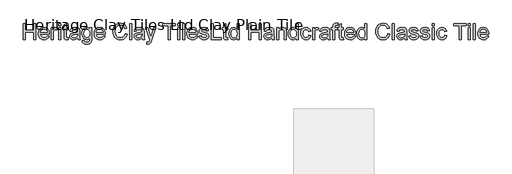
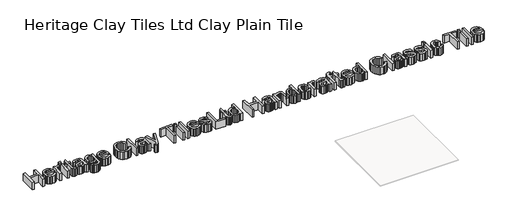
# One storey, part 2 of 3: 1 proxy.
"""IFC4 building model written with IfcOpenShell, lengths in millimetres."""

from ifc_helpers import new_model, si_unit, frame, origin, place, context, project, spatial, polyline, outline, extrude, element, save

model = new_model("IFC4")

# Units and contexts
model_context = context("Model", 3, world=origin())
ifc_project = project(units=[si_unit("LENGTHUNIT", "METRE", prefix="MILLI")], contexts=[model_context])

# Site, building, storey
site = spatial("IfcSite", under=ifc_project)
building = spatial("IfcBuilding", under=site)
storey = spatial("IfcBuildingStorey", under=building, Name="Heritage Clay Tiles Ltd Clay Plain Tile", Elevation=3000.0)

# Proxy
placement = place(None, origin())
element("IfcBuildingElementProxy", 1, Name="600mm Arial", ObjectType="600mm Arial", at=placement, inside=storey, context=model_context, shape_type="SweptSolid", body=[
    extrude(outline(polyline([(-15910.8184217, 5094.6734904), (-15910.8184217, 5396.0424208), (-15873.1473054, 5396.0424208), (-15873.1473054, 5273.6112928), (-15713.0450611, 5273.6112928), (-15713.0450611, 5396.0424208), (-15675.3739448, 5396.0424208), (-15675.3739448, 5094.6734904), (-15713.0450611, 5094.6734904), (-15713.0450611, 5235.9401765), (-15873.1473054, 5235.9401765), (-15873.1473054, 5094.6734904), (-15910.8184217, 5094.6734904)])), frame((0.0, 0.0, 3000.0), z_axis=(0.0, 0.0, 1.0), x_axis=(1.0, 0.0, 0.0)), (0.0, 0.0, 1.0), 150.0),
    extrude(outline(polyline([(-15459.2064844, 5160.5979439), (-15422.2711321, 5155.8890544), (-15435.5792633, 5128.0587814), (-15456.8152514, 5107.2550546), (-15485.50085, 5094.2872143), (-15521.1578124, 5089.9646008), (-15544.5321147, 5091.8293027), (-15565.3588341, 5097.4234083), (-15583.6379708, 5106.7469176), (-15599.3695246, 5119.7998306), (-15612.0200667, 5136.2188639), (-15621.0561682, 5155.640734), (-15626.4778291, 5178.0654409), (-15628.2850494, 5203.4929846), (-15626.459435, 5229.7827516), (-15620.9825918, 5252.9547188), (-15611.8545198, 5273.0088861), (-15599.075219, 5289.9452534), (-15583.3850519, 5303.4005374), (-15565.524381, 5313.0114545), (-15545.4932064, 5318.7780048), (-15523.291528, 5320.7001882), (-15501.8049202, 5318.7826033), (-15482.3738531, 5313.0298486), (-15464.9983266, 5303.4419241), (-15449.6783407, 5290.0188298), (-15437.1726522, 5273.1192507), (-15428.2400175, 5253.1018716), (-15422.8804367, 5229.9666926), (-15421.0939097, 5203.7137137), (-15421.3146389, 5193.5601707), (-15590.6139331, 5193.5601707), (-15584.0932247, 5165.3620158), (-15568.9456836, 5144.6318653), (-15547.084296, 5131.8847542), (-15520.4220484, 5127.6357171), (-15500.3724797, 5129.6038858), (-15483.4866961, 5135.5083918), (-15469.7646977, 5145.7171172), (-15459.2064844, 5160.5979439)]), holes=[polyline([(-15590.6139331, 5231.231287), (-15458.765026, 5231.231287), (-15463.8601917, 5251.1337029), (-15473.8481878, 5265.3707361), (-15495.8107429, 5278.614488), (-15523.4386808, 5283.0290719), (-15548.8317355, 5279.5066018), (-15569.8286004, 5268.9391915), (-15584.4243185, 5252.4672752), (-15590.6139331, 5231.231287)])]), frame((0.0, 0.0, 3000.0), z_axis=(0.0, 0.0, 1.0), x_axis=(1.0, 0.0, 0.0)), (0.0, 0.0, 1.0), 150.0),
    extrude(outline(polyline([(-15383.4227934, 5094.6734904), (-15383.4227934, 5315.9912987), (-15350.4605666, 5315.9912987), (-15350.4605666, 5283.2498011), (-15338.2836726, 5302.2325121), (-15327.0632717, 5313.4161247), (-15315.8060827, 5318.8791723), (-15303.5188241, 5320.7001882), (-15284.7568423, 5317.7939205), (-15265.7005549, 5309.0751172), (-15278.2821192, 5275.30355), (-15291.525871, 5281.0976914), (-15304.7696228, 5283.0290719), (-15316.0176148, 5281.1712678), (-15326.0699904, 5275.5978556), (-15334.1909854, 5266.7318995), (-15339.644836, 5254.9964639), (-15344.2249668, 5233.9536138), (-15345.7516771, 5210.9977773), (-15345.7516771, 5094.6734904), (-15383.4227934, 5094.6734904)])), frame((0.0, 0.0, 3000.0), z_axis=(0.0, 0.0, 1.0), x_axis=(1.0, 0.0, 0.0)), (0.0, 0.0, 1.0), 150.0),
    extrude(outline(polyline([(-15242.1561073, 5358.3713045), (-15242.1561073, 5396.0424208), (-15204.484991, 5396.0424208), (-15204.484991, 5358.3713045), (-15242.1561073, 5358.3713045)])), frame((0.0, 0.0, 3000.0), z_axis=(0.0, 0.0, 1.0), x_axis=(1.0, 0.0, 0.0)), (0.0, 0.0, 1.0), 150.0),
    extrude(outline(polyline([(-15242.1561073, 5094.6734904), (-15242.1561073, 5315.9912987), (-15204.484991, 5315.9912987), (-15204.484991, 5094.6734904), (-15242.1561073, 5094.6734904)])), frame((0.0, 0.0, 3000.0), z_axis=(0.0, 0.0, 1.0), x_axis=(1.0, 0.0, 0.0)), (0.0, 0.0, 1.0), 150.0),
    extrude(outline(polyline([(-15067.9271943, 5126.0906128), (-15063.2183048, 5093.5698444), (-15091.3980656, 5089.9646008), (-15109.4794657, 5091.5280993), (-15122.9623408, 5096.2185948), (-15132.4904845, 5103.447476), (-15138.7076902, 5112.6261317), (-15142.1289928, 5128.3898752), (-15143.269427, 5155.3740196), (-15143.269427, 5278.3201824), (-15171.5227642, 5278.3201824), (-15171.5227642, 5315.9912987), (-15143.269427, 5315.9912987), (-15143.269427, 5369.7756464), (-15105.5983106, 5391.9221425), (-15105.5983106, 5315.9912987), (-15067.9271943, 5315.9912987), (-15067.9271943, 5278.3201824), (-15105.5983106, 5278.3201824), (-15105.5983106, 5156.4776656), (-15103.6117479, 5137.0534962), (-15097.173813, 5130.1741029), (-15084.3347313, 5127.6357171), (-15067.9271943, 5126.0906128)])), frame((0.0, 0.0, 3000.0), z_axis=(0.0, 0.0, 1.0), x_axis=(1.0, 0.0, 0.0)), (0.0, 0.0, 1.0), 150.0),
    extrude(outline(polyline([(-14888.9893919, 5122.9268276), (-14906.9880185, 5107.4941779), (-14925.520074, 5097.3958171), (-14945.0086227, 5091.8224049), (-14965.8767289, 5089.9646008), (-14997.3582306, 5094.4343671), (-15020.5807816, 5107.8436658), (-15034.9005882, 5128.2059342), (-15039.6738571, 5153.5346096), (-15037.8712353, 5169.1512003), (-15032.46337, 5183.3330512), (-15024.1216458, 5195.4731571), (-15013.5174473, 5204.9645125), (-14987.1403082, 5217.3253476), (-14954.5459634, 5222.9907303), (-14916.0287185, 5228.9504186), (-14889.2101211, 5235.9401765), (-14888.9893919, 5244.327886), (-14891.58296, 5261.1400932), (-14899.3636642, 5272.1397649), (-14916.7644825, 5280.3067451), (-14941.007906, 5283.0290719), (-14963.4487077, 5281.2172531), (-14979.1204807, 5275.7817966), (-14989.8074527, 5265.7294211), (-14997.2938513, 5250.0668451), (-15034.9649676, 5254.7757347), (-15028.4258651, 5275.3771264), (-15018.6677952, 5291.5639342), (-15004.7802499, 5303.9431633), (-14985.8527212, 5313.1218191), (-14962.7037467, 5318.8055959), (-14936.1518637, 5320.7001882), (-14910.6852326, 5319.0263251), (-14890.4977081, 5314.0047359), (-14875.2765905, 5306.453958), (-14864.7091802, 5297.1925287), (-14857.7010282, 5285.7422016), (-14853.1576856, 5271.6247301), (-14851.3182756, 5238.6625033), (-14851.3182756, 5191.7943371), (-14849.4052892, 5126.3481302), (-14841.9004965, 5094.6734904), (-14879.5716128, 5094.6734904), (-14888.9893919, 5122.9268276)]), holes=[polyline([(-14888.9893919, 5198.2690602), (-14949.7634975, 5186.7175656), (-14982.1739013, 5180.6107245), (-14996.8523929, 5170.6779106), (-15002.0027408, 5156.18336), (-14999.1976406, 5144.9813532), (-14990.78234, 5135.8026974), (-14976.9407799, 5129.6774622), (-14957.8569014, 5127.6357171), (-14937.6233916, 5129.8889944), (-14919.7443267, 5136.648826), (-14905.2497761, 5146.609231), (-14895.1698094, 5158.4642283), (-14890.7000432, 5170.6779106), (-14889.2101211, 5187.6004824), (-14888.9893919, 5198.2690602)])]), frame((0.0, 0.0, 3000.0), z_axis=(0.0, 0.0, 1.0), x_axis=(1.0, 0.0, 0.0)), (0.0, 0.0, 1.0), 150.0),
    extrude(outline(polyline([(-14808.9382697, 5075.8379322), (-14771.2671534, 5071.1290427), (-14767.1100869, 5059.3568188), (-14759.0534712, 5051.2634149), (-14743.2161513, 5044.9726328), (-14722.4860009, 5042.8757055), (-14700.376293, 5045.2485443), (-14683.9319678, 5052.3670609), (-14672.5276259, 5063.7714028), (-14665.537868, 5079.0017174), (-14662.9626941, 5122.9268276), (-14675.498273, 5110.5659926), (-14689.4869859, 5101.7368247), (-14704.9288327, 5096.439324), (-14721.8238133, 5094.6734904), (-14742.478088, 5096.729031), (-14760.6629549, 5102.895653), (-14776.3784139, 5113.1733562), (-14789.624465, 5127.5621407), (-14800.1343937, 5144.8250034), (-14807.6414857, 5163.7249409), (-14812.1457409, 5184.2619533), (-14813.6471593, 5206.4360405), (-14810.9524237, 5236.8506845), (-14802.8682168, 5264.8189131), (-14789.6796473, 5288.5197107), (-14771.6718236, 5306.1320612), (-14749.4609482, 5317.0581565), (-14723.6632233, 5320.7001882), (-14706.0462742, 5318.640049), (-14690.057203, 5312.4596315), (-14675.6960096, 5302.1589357), (-14662.9626941, 5287.7379614), (-14662.9626941, 5315.9912987), (-14625.2915777, 5315.9912987), (-14625.2915777, 5124.9133904), (-14627.8667517, 5080.7951421), (-14635.5922736, 5051.7416615), (-14648.9004048, 5032.473842), (-14668.2234066, 5017.712577), (-14693.1382147, 5008.3315861), (-14723.2217649, 5005.2045892), (-14758.271722, 5009.609976), (-14785.8720686, 5022.8261367), (-14796.2670343, 5032.7474543), (-14803.5763897, 5044.8898594), (-14807.8001348, 5059.253352), (-14808.9382697, 5075.8379322)]), holes=[polyline([(-14775.976043, 5209.0112145), (-14771.9569322, 5174.4578981), (-14759.8995998, 5150.7019182), (-14741.7722145, 5136.9339346), (-14719.5429449, 5132.3446067), (-14697.4792222, 5136.9063434), (-14679.2598664, 5150.5915536), (-14667.0369871, 5174.0440308), (-14662.9626941, 5207.9075685), (-14667.1565488, 5240.5662926), (-14679.738113, 5264.0831492), (-14698.2241833, 5278.2925912), (-14720.1315561, 5283.0290719), (-14741.6434558, 5278.3661676), (-14759.6788706, 5264.3774548), (-14771.9017499, 5241.2100861), (-14775.976043, 5209.0112145)])]), frame((0.0, 0.0, 3000.0), z_axis=(0.0, 0.0, 1.0), x_axis=(1.0, 0.0, 0.0)), (0.0, 0.0, 1.0), 150.0),
    extrude(outline(polyline([(-14413.8330069, 5160.5979439), (-14376.8976546, 5155.8890544), (-14390.2057858, 5128.0587814), (-14411.4417739, 5107.2550546), (-14440.1273725, 5094.2872143), (-14475.7843349, 5089.9646008), (-14499.1586372, 5091.8293027), (-14519.9853566, 5097.4234083), (-14538.2644933, 5106.7469176), (-14553.9960471, 5119.7998306), (-14566.6465892, 5136.2188639), (-14575.6826907, 5155.640734), (-14581.1043516, 5178.0654409), (-14582.9115719, 5203.4929846), (-14581.0859575, 5229.7827516), (-14575.6091143, 5252.9547188), (-14566.4810423, 5273.0088861), (-14553.7017415, 5289.9452534), (-14538.0115744, 5303.4005374), (-14520.1509035, 5313.0114545), (-14500.1197289, 5318.7780048), (-14477.9180505, 5320.7001882), (-14456.4314427, 5318.7826033), (-14437.0003756, 5313.0298486), (-14419.6248491, 5303.4419241), (-14404.3048632, 5290.0188298), (-14391.7991747, 5273.1192507), (-14382.86654, 5253.1018716), (-14377.5069592, 5229.9666926), (-14375.7204322, 5203.7137137), (-14375.9411614, 5193.5601707), (-14545.2404556, 5193.5601707), (-14538.7197472, 5165.3620158), (-14523.5722061, 5144.6318653), (-14501.7108185, 5131.8847542), (-14475.0485709, 5127.6357171), (-14454.9990022, 5129.6038858), (-14438.1132186, 5135.5083918), (-14424.3912202, 5145.7171172), (-14413.8330069, 5160.5979439)]), holes=[polyline([(-14545.2404556, 5231.231287), (-14413.3915485, 5231.231287), (-14418.4867142, 5251.1337029), (-14428.4747103, 5265.3707361), (-14450.4372654, 5278.614488), (-14478.0652033, 5283.0290719), (-14503.458258, 5279.5066018), (-14524.4551229, 5268.9391915), (-14539.050841, 5252.4672752), (-14545.2404556, 5231.231287)])]), frame((0.0, 0.0, 3000.0), z_axis=(0.0, 0.0, 1.0), x_axis=(1.0, 0.0, 0.0)), (0.0, 0.0, 1.0), 150.0),
    extrude(outline(polyline([(-14003.7181587, 5201.8007274), (-13966.0470424, 5192.0886427), (-13973.5012513, 5168.6614574), (-13983.4294667, 5148.1911236), (-13995.8316884, 5130.6776414), (-14010.7079166, 5116.1210107), (-14027.7224589, 5104.6775814), (-14046.5396229, 5096.5037033), (-14067.1594088, 5091.5993765), (-14089.5818164, 5089.9646008), (-14133.2770003, 5094.9126137), (-14167.9774695, 5109.7566522), (-14194.5753378, 5133.9816816), (-14213.9627189, 5167.072667), (-14225.7993221, 5205.976188), (-14229.7448565, 5247.638824), (-14225.2842873, 5291.5823283), (-14211.9025798, 5329.5293561), (-14190.2987096, 5360.2750938), (-14161.1716526, 5382.614728), (-14126.6275333, 5396.2171648), (-14088.772476, 5400.7513104), (-14047.468525, 5394.8835925), (-14029.4997888, 5387.5489453), (-14013.3198788, 5377.2804391), (-13999.1955094, 5364.3493869), (-13987.3933952, 5349.0271018), (-13970.7559319, 5311.2088327), (-14008.4270482, 5302.2325121), (-14021.4868591, 5329.7041), (-14039.3291358, 5348.5488552), (-14062.1746077, 5359.4473594), (-14090.244004, 5363.0801941), (-14122.5992254, 5359.0518862), (-14149.1786996, 5346.9669627), (-14169.34783, 5328.0946163), (-14182.4720202, 5303.70404), (-14189.6733102, 5276.1312845), (-14192.0737402, 5247.7124004), (-14189.2318518, 5212.9107636), (-14180.7061866, 5182.8180164), (-14166.1748478, 5158.58379), (-14145.3159386, 5141.3577156), (-14120.30916, 5131.0662168), (-14093.3342127, 5127.6357171), (-14061.8894992, 5132.3078185), (-14035.6871041, 5146.3241225), (-14015.9042498, 5169.5374764), (-14003.7181587, 5201.8007274)])), frame((0.0, 0.0, 3000.0), z_axis=(0.0, 0.0, 1.0), x_axis=(1.0, 0.0, 0.0)), (0.0, 0.0, 1.0), 150.0),
    extrude(outline(polyline([(-13918.958147, 5094.6734904), (-13918.958147, 5396.0424208), (-13881.2870307, 5396.0424208), (-13881.2870307, 5094.6734904), (-13918.958147, 5094.6734904)])), frame((0.0, 0.0, 3000.0), z_axis=(0.0, 0.0, 1.0), x_axis=(1.0, 0.0, 0.0)), (0.0, 0.0, 1.0), 150.0),
    extrude(outline(polyline([(-13683.5136701, 5122.9268276), (-13701.5122967, 5107.4941779), (-13720.0443522, 5097.3958171), (-13739.5329009, 5091.8224049), (-13760.4010071, 5089.9646008), (-13791.8825088, 5094.4343671), (-13815.1050598, 5107.8436658), (-13829.4248664, 5128.2059342), (-13834.1981353, 5153.5346096), (-13832.3955135, 5169.1512003), (-13826.9876482, 5183.3330512), (-13818.645924, 5195.4731571), (-13808.0417255, 5204.9645125), (-13781.6645864, 5217.3253476), (-13749.0702416, 5222.9907303), (-13710.5529967, 5228.9504186), (-13683.7343993, 5235.9401765), (-13683.5136701, 5244.327886), (-13686.1072382, 5261.1400932), (-13693.8879424, 5272.1397649), (-13711.2887607, 5280.3067451), (-13735.5321842, 5283.0290719), (-13757.9729859, 5281.2172531), (-13773.6447589, 5275.7817966), (-13784.3317309, 5265.7294211), (-13791.8181295, 5250.0668451), (-13829.4892458, 5254.7757347), (-13822.9501433, 5275.3771264), (-13813.1920734, 5291.5639342), (-13799.3045281, 5303.9431633), (-13780.3769994, 5313.1218191), (-13757.2280249, 5318.8055959), (-13730.6761419, 5320.7001882), (-13705.2095108, 5319.0263251), (-13685.0219863, 5314.0047359), (-13669.8008687, 5306.453958), (-13659.2334584, 5297.1925287), (-13652.2253064, 5285.7422016), (-13647.6819638, 5271.6247301), (-13645.8425538, 5238.6625033), (-13645.8425538, 5191.7943371), (-13643.9295674, 5126.3481302), (-13636.4247747, 5094.6734904), (-13674.095891, 5094.6734904), (-13683.5136701, 5122.9268276)]), holes=[polyline([(-13683.5136701, 5198.2690602), (-13744.2877757, 5186.7175656), (-13776.6981795, 5180.6107245), (-13791.3766711, 5170.6779106), (-13796.527019, 5156.18336), (-13793.7219188, 5144.9813532), (-13785.3066182, 5135.8026974), (-13771.4650581, 5129.6774622), (-13752.3811796, 5127.6357171), (-13732.1476699, 5129.8889944), (-13714.2686049, 5136.648826), (-13699.7740543, 5146.609231), (-13689.6940876, 5158.4642283), (-13685.2243214, 5170.6779106), (-13683.7343993, 5187.6004824), (-13683.5136701, 5198.2690602)])]), frame((0.0, 0.0, 3000.0), z_axis=(0.0, 0.0, 1.0), x_axis=(1.0, 0.0, 0.0)), (0.0, 0.0, 1.0), 150.0),
    extrude(outline(polyline([(-13594.0447689, 5009.9134787), (-13598.7536584, 5046.1866434), (-13579.6237947, 5042.8757055), (-13561.7447297, 5047.032772), (-13550.7818462, 5058.6210549), (-13540.4811504, 5086.3593573), (-13537.5380944, 5095.4828308), (-13617.5892166, 5315.9912987), (-13577.8579611, 5315.9912987), (-13535.4043788, 5193.1187123), (-13520.6155226, 5143.9696777), (-13505.8266664, 5187.3797532), (-13462.1958618, 5315.9912987), (-13422.7589119, 5315.9912987), (-13499.7934017, 5089.3759896), (-13519.8061822, 5040.2269551), (-13530.0516958, 5024.536788), (-13541.6583728, 5013.665875), (-13555.1412479, 5007.3199106), (-13571.015356, 5005.2045892), (-13594.0447689, 5009.9134787)])), frame((0.0, 0.0, 3000.0), z_axis=(0.0, 0.0, 1.0), x_axis=(1.0, 0.0, 0.0)), (0.0, 0.0, 1.0), 150.0),
    extrude(outline(polyline([(-13193.7891581, 5094.6734904), (-13193.7891581, 5358.3713045), (-13292.6758384, 5358.3713045), (-13292.6758384, 5396.0424208), (-13057.2313615, 5396.0424208), (-13057.2313615, 5358.3713045), (-13156.1180418, 5358.3713045), (-13156.1180418, 5094.6734904), (-13193.7891581, 5094.6734904)])), frame((0.0, 0.0, 3000.0), z_axis=(0.0, 0.0, 1.0), x_axis=(1.0, 0.0, 0.0)), (0.0, 0.0, 1.0), 150.0),
    extrude(outline(polyline([(-13019.5602452, 5358.3713045), (-13019.5602452, 5396.0424208), (-12981.8891289, 5396.0424208), (-12981.8891289, 5358.3713045), (-13019.5602452, 5358.3713045)])), frame((0.0, 0.0, 3000.0), z_axis=(0.0, 0.0, 1.0), x_axis=(1.0, 0.0, 0.0)), (0.0, 0.0, 1.0), 150.0),
    extrude(outline(polyline([(-13019.5602452, 5094.6734904), (-13019.5602452, 5315.9912987), (-12981.8891289, 5315.9912987), (-12981.8891289, 5094.6734904), (-13019.5602452, 5094.6734904)])), frame((0.0, 0.0, 3000.0), z_axis=(0.0, 0.0, 1.0), x_axis=(1.0, 0.0, 0.0)), (0.0, 0.0, 1.0), 150.0),
    extrude(outline(polyline([(-12925.3824544, 5094.6734904), (-12925.3824544, 5396.0424208), (-12887.7113381, 5396.0424208), (-12887.7113381, 5094.6734904), (-12925.3824544, 5094.6734904)])), frame((0.0, 0.0, 3000.0), z_axis=(0.0, 0.0, 1.0), x_axis=(1.0, 0.0, 0.0)), (0.0, 0.0, 1.0), 150.0),
    extrude(outline(polyline([(-12676.2527673, 5160.5979439), (-12639.317415, 5155.8890544), (-12652.6255462, 5128.0587814), (-12673.8615343, 5107.2550546), (-12702.5471329, 5094.2872143), (-12738.2040953, 5089.9646008), (-12761.5783976, 5091.8293027), (-12782.405117, 5097.4234083), (-12800.6842536, 5106.7469176), (-12816.4158075, 5119.7998306), (-12829.0663496, 5136.2188639), (-12838.1024511, 5155.640734), (-12843.524112, 5178.0654409), (-12845.3313323, 5203.4929846), (-12843.5057179, 5229.7827516), (-12838.0288747, 5252.9547188), (-12828.9008027, 5273.0088861), (-12816.1215019, 5289.9452534), (-12800.4313348, 5303.4005374), (-12782.5706639, 5313.0114545), (-12762.5394893, 5318.7780048), (-12740.3378109, 5320.7001882), (-12718.8512031, 5318.7826033), (-12699.4201359, 5313.0298486), (-12682.0446095, 5303.4419241), (-12666.7246236, 5290.0188298), (-12654.218935, 5273.1192507), (-12645.2863004, 5253.1018716), (-12639.9267195, 5229.9666926), (-12638.1401926, 5203.7137137), (-12638.3609218, 5193.5601707), (-12807.660216, 5193.5601707), (-12801.1395076, 5165.3620158), (-12785.9919665, 5144.6318653), (-12764.1305789, 5131.8847542), (-12737.4683313, 5127.6357171), (-12717.4187626, 5129.6038858), (-12700.532979, 5135.5083918), (-12686.8109806, 5145.7171172), (-12676.2527673, 5160.5979439)]), holes=[polyline([(-12807.660216, 5231.231287), (-12675.8113089, 5231.231287), (-12680.9064745, 5251.1337029), (-12690.8944707, 5265.3707361), (-12712.8570258, 5278.614488), (-12740.4849637, 5283.0290719), (-12765.8780184, 5279.5066018), (-12786.8748832, 5268.9391915), (-12801.4706014, 5252.4672752), (-12807.660216, 5231.231287)])]), frame((0.0, 0.0, 3000.0), z_axis=(0.0, 0.0, 1.0), x_axis=(1.0, 0.0, 0.0)), (0.0, 0.0, 1.0), 150.0),
    extrude(outline(polyline([(-12614.5957449, 5160.5979439), (-12576.9246286, 5165.3068335), (-12570.9833344, 5149.1936021), (-12559.487022, 5137.3478018), (-12542.3621152, 5130.0637383), (-12519.5350374, 5127.6357171), (-12496.983871, 5129.8614032), (-12481.1281571, 5136.5384614), (-12471.7471662, 5146.2137579), (-12468.6201692, 5157.4341588), (-12471.7655603, 5167.0358788), (-12481.2017335, 5174.3567305), (-12519.9764957, 5185.0988848), (-12576.7038994, 5203.5297728), (-12591.0604943, 5212.791202), (-12601.4623577, 5225.0508695), (-12607.7807309, 5239.527026), (-12609.8868554, 5255.4379223), (-12608.1945982, 5270.0336404), (-12603.1178267, 5283.5073185), (-12595.1163933, 5295.3255276), (-12584.6501505, 5304.9548388), (-12560.7010326, 5316.1016633), (-12528.2906288, 5320.7001882), (-12503.7712939, 5318.8515812), (-12482.4525322, 5313.3057601), (-12465.3092313, 5304.6053509), (-12453.3162782, 5293.2929796), (-12445.3700271, 5278.5317145), (-12440.366832, 5259.4846242), (-12478.0379483, 5254.7757347), (-12482.7928231, 5266.630732), (-12492.2014051, 5275.5610674), (-12506.3556649, 5281.1620708), (-12525.3475729, 5283.0290719), (-12546.9790342, 5281.2448442), (-12561.4000084, 5275.8921612), (-12569.5118064, 5268.1666393), (-12572.2157391, 5259.263895), (-12567.7275787, 5248.3010116), (-12553.6744865, 5239.9868785), (-12521.2272945, 5231.967051), (-12465.9346307, 5214.2351388), (-12451.3297154, 5205.7554588), (-12440.2564674, 5194.1487819), (-12433.2759065, 5179.3783198), (-12430.9490529, 5161.4072843), (-12433.6805767, 5142.8292435), (-12441.8751482, 5125.3548488), (-12455.2200675, 5110.3544604), (-12473.4026352, 5099.1984389), (-12495.3651903, 5092.2730604), (-12520.0500721, 5089.9646008), (-12558.0338881, 5094.415973), (-12585.7537965, 5107.7700894), (-12604.2582608, 5129.8797973), (-12614.5957449, 5160.5979439)])), frame((0.0, 0.0, 3000.0), z_axis=(0.0, 0.0, 1.0), x_axis=(1.0, 0.0, 0.0)), (0.0, 0.0, 1.0), 150.0),
    extrude(outline(polyline([(-12383.8601575, 5094.6734904), (-12383.8601575, 5396.0424208), (-12346.1890412, 5396.0424208), (-12346.1890412, 5132.3446067), (-12195.504576, 5132.3446067), (-12195.504576, 5094.6734904), (-12383.8601575, 5094.6734904)])), frame((0.0, 0.0, 3000.0), z_axis=(0.0, 0.0, 1.0), x_axis=(1.0, 0.0, 0.0)), (0.0, 0.0, 1.0), 150.0),
    extrude(outline(polyline([(-12077.7823375, 5126.0906128), (-12073.073448, 5093.5698444), (-12101.2532088, 5089.9646008), (-12119.3346089, 5091.5280993), (-12132.817484, 5096.2185948), (-12142.3456277, 5103.447476), (-12148.5628334, 5112.6261317), (-12151.984136, 5128.3898752), (-12153.1245702, 5155.3740196), (-12153.1245702, 5278.3201824), (-12181.3779074, 5278.3201824), (-12181.3779074, 5315.9912987), (-12153.1245702, 5315.9912987), (-12153.1245702, 5369.7756464), (-12115.4534539, 5391.9221425), (-12115.4534539, 5315.9912987), (-12077.7823375, 5315.9912987), (-12077.7823375, 5278.3201824), (-12115.4534539, 5278.3201824), (-12115.4534539, 5156.4776656), (-12113.4668911, 5137.0534962), (-12107.0289562, 5130.1741029), (-12094.1898745, 5127.6357171), (-12077.7823375, 5126.0906128)])), frame((0.0, 0.0, 3000.0), z_axis=(0.0, 0.0, 1.0), x_axis=(1.0, 0.0, 0.0)), (0.0, 0.0, 1.0), 150.0),
    extrude(outline(polyline([(-11903.5534246, 5094.6734904), (-11903.5534246, 5130.2108911), (-11914.8244093, 5112.6031391), (-11928.4774298, 5100.0261734), (-11944.5124863, 5092.479994), (-11962.9295787, 5089.9646008), (-11987.2833667, 5093.6066326), (-12009.5770156, 5104.5327278), (-12028.449362, 5121.9795315), (-12042.5392424, 5145.1836883), (-12051.313228, 5173.2070993), (-12054.2378899, 5205.1116653), (-12051.5431542, 5236.6207582), (-12043.4589474, 5265.0764305), (-12029.9944664, 5288.8600015), (-12011.1589082, 5306.3527904), (-11988.3778157, 5317.1133388), (-11963.0767314, 5320.7001882), (-11944.6458435, 5318.1342113), (-11928.3486711, 5310.4362805), (-11914.5347022, 5298.6364656), (-11903.5534246, 5283.7648359), (-11903.5534246, 5396.0424208), (-11865.8823083, 5396.0424208), (-11865.8823083, 5094.6734904), (-11903.5534246, 5094.6734904)]), holes=[polyline([(-12016.5667735, 5205.2588181), (-12012.3177365, 5171.1837483), (-11999.5706254, 5146.9495219), (-11981.0477669, 5132.4641683), (-11959.4714879, 5127.6357171), (-11937.9044059, 5132.2434391), (-11919.850597, 5146.0666051), (-11907.6277177, 5169.3627324), (-11903.5534246, 5202.3893386), (-11907.7012941, 5238.4969564), (-11920.1449026, 5263.5313262), (-11938.658564, 5278.1546355), (-11961.0165923, 5283.0290719), (-11982.8136005, 5278.3477735), (-12000.6742714, 5264.3038784), (-12012.593648, 5240.1800165), (-12016.5667735, 5205.2588181)])]), frame((0.0, 0.0, 3000.0), z_axis=(0.0, 0.0, 1.0), x_axis=(1.0, 0.0, 0.0)), (0.0, 0.0, 1.0), 150.0),
    extrude(outline(polyline([(-11686.9445059, 5094.6734904), (-11686.9445059, 5396.0424208), (-11649.2733896, 5396.0424208), (-11649.2733896, 5273.6112928), (-11489.1711453, 5273.6112928), (-11489.1711453, 5396.0424208), (-11451.500029, 5396.0424208), (-11451.500029, 5094.6734904), (-11489.1711453, 5094.6734904), (-11489.1711453, 5235.9401765), (-11649.2733896, 5235.9401765), (-11649.2733896, 5094.6734904), (-11686.9445059, 5094.6734904)])), frame((0.0, 0.0, 3000.0), z_axis=(0.0, 0.0, 1.0), x_axis=(1.0, 0.0, 0.0)), (0.0, 0.0, 1.0), 150.0),
    extrude(outline(polyline([(-11249.0177788, 5122.9268276), (-11267.0164054, 5107.4941779), (-11285.5484609, 5097.3958171), (-11305.0370096, 5091.8224049), (-11325.9051158, 5089.9646008), (-11357.3866175, 5094.4343671), (-11380.6091685, 5107.8436658), (-11394.9289751, 5128.2059342), (-11399.702244, 5153.5346096), (-11397.8996223, 5169.1512003), (-11392.4917569, 5183.3330512), (-11384.1500327, 5195.4731571), (-11373.5458342, 5204.9645125), (-11347.1686951, 5217.3253476), (-11314.5743504, 5222.9907303), (-11276.0571055, 5228.9504186), (-11249.238508, 5235.9401765), (-11249.0177788, 5244.327886), (-11251.6113469, 5261.1400932), (-11259.3920511, 5272.1397649), (-11276.7928694, 5280.3067451), (-11301.0362929, 5283.0290719), (-11323.4770946, 5281.2172531), (-11339.1488676, 5275.7817966), (-11349.8358396, 5265.7294211), (-11357.3222382, 5250.0668451), (-11394.9933545, 5254.7757347), (-11388.454252, 5275.3771264), (-11378.6961821, 5291.5639342), (-11364.8086368, 5303.9431633), (-11345.8811081, 5313.1218191), (-11322.7321336, 5318.8055959), (-11296.1802506, 5320.7001882), (-11270.7136195, 5319.0263251), (-11250.526095, 5314.0047359), (-11235.3049774, 5306.453958), (-11224.7375671, 5297.1925287), (-11217.7294151, 5285.7422016), (-11213.1860725, 5271.6247301), (-11211.3466625, 5238.6625033), (-11211.3466625, 5191.7943371), (-11209.4336761, 5126.3481302), (-11201.9288834, 5094.6734904), (-11239.5999997, 5094.6734904), (-11249.0177788, 5122.9268276)]), holes=[polyline([(-11249.0177788, 5198.2690602), (-11309.7918844, 5186.7175656), (-11342.2022882, 5180.6107245), (-11356.8807798, 5170.6779106), (-11362.0311277, 5156.18336), (-11359.2260275, 5144.9813532), (-11350.8107269, 5135.8026974), (-11336.9691668, 5129.6774622), (-11317.8852883, 5127.6357171), (-11297.6517786, 5129.8889944), (-11279.7727136, 5136.648826), (-11265.278163, 5146.609231), (-11255.1981963, 5158.4642283), (-11250.7284301, 5170.6779106), (-11249.238508, 5187.6004824), (-11249.0177788, 5198.2690602)])]), frame((0.0, 0.0, 3000.0), z_axis=(0.0, 0.0, 1.0), x_axis=(1.0, 0.0, 0.0)), (0.0, 0.0, 1.0), 150.0),
    extrude(outline(polyline([(-11159.5488776, 5094.6734904), (-11159.5488776, 5315.9912987), (-11121.8777613, 5315.9912987), (-11121.8777613, 5285.0892111), (-11108.7903593, 5300.6690136), (-11093.0726011, 5311.7974439), (-11074.7244865, 5318.4745021), (-11053.7460158, 5320.7001882), (-11035.1771721, 5318.9067635), (-11018.1718268, 5313.5264893), (-11003.9899759, 5305.2307503), (-10993.8916152, 5294.6909312), (-10982.5976379, 5266.9894169), (-10980.6110751, 5230.5690994), (-10980.6110751, 5094.6734904), (-11018.2821914, 5094.6734904), (-11018.2821914, 5225.4923279), (-11022.623199, 5258.8224366), (-11028.6288725, 5268.7460534), (-11037.9638782, 5276.4439842), (-11049.9292401, 5281.3828), (-11063.8259824, 5283.0290719), (-11085.8897051, 5279.3318579), (-11104.6976721, 5268.2402157), (-11112.2139611, 5259.1857201), (-11117.582739, 5246.8110895), (-11121.8777613, 5212.1014232), (-11121.8777613, 5094.6734904), (-11159.5488776, 5094.6734904)])), frame((0.0, 0.0, 3000.0), z_axis=(0.0, 0.0, 1.0), x_axis=(1.0, 0.0, 0.0)), (0.0, 0.0, 1.0), 150.0),
    extrude(outline(polyline([(-10792.2554936, 5094.6734904), (-10792.2554936, 5130.2108911), (-10803.5264782, 5112.6031391), (-10817.1794988, 5100.0261734), (-10833.2145552, 5092.479994), (-10851.6316476, 5089.9646008), (-10875.9854357, 5093.6066326), (-10898.2790846, 5104.5327278), (-10917.151431, 5121.9795315), (-10931.2413114, 5145.1836883), (-10940.015297, 5173.2070993), (-10942.9399588, 5205.1116653), (-10940.2452232, 5236.6207582), (-10932.1610164, 5265.0764305), (-10918.6965353, 5288.8600015), (-10899.8609772, 5306.3527904), (-10877.0798846, 5317.1133388), (-10851.7788004, 5320.7001882), (-10833.3479125, 5318.1342113), (-10817.0507401, 5310.4362805), (-10803.2367712, 5298.6364656), (-10792.2554936, 5283.7648359), (-10792.2554936, 5396.0424208), (-10754.5843773, 5396.0424208), (-10754.5843773, 5094.6734904), (-10792.2554936, 5094.6734904)]), holes=[polyline([(-10905.2688425, 5205.2588181), (-10901.0198055, 5171.1837483), (-10888.2726943, 5146.9495219), (-10869.7498359, 5132.4641683), (-10848.1735569, 5127.6357171), (-10826.6064749, 5132.2434391), (-10808.552666, 5146.0666051), (-10796.3297867, 5169.3627324), (-10792.2554936, 5202.3893386), (-10796.4033631, 5238.4969564), (-10808.8469716, 5263.5313262), (-10827.360633, 5278.1546355), (-10849.7186612, 5283.0290719), (-10871.5156695, 5278.3477735), (-10889.3763403, 5264.3038784), (-10901.295717, 5240.1800165), (-10905.2688425, 5205.2588181)])]), frame((0.0, 0.0, 3000.0), z_axis=(0.0, 0.0, 1.0), x_axis=(1.0, 0.0, 0.0)), (0.0, 0.0, 1.0), 150.0),
    extrude(outline(polyline([(-10556.8110167, 5174.7246125), (-10519.1399004, 5170.015723), (-10529.6429313, 5136.5108703), (-10549.3798004, 5111.191392), (-10576.4927034, 5095.2712986), (-10609.1238364, 5089.9646008), (-10630.2517592, 5091.8155071), (-10649.1953827, 5097.368226), (-10665.9547069, 5106.6227574), (-10680.5297317, 5119.5791015), (-10692.3272474, 5135.9935362), (-10700.7540443, 5155.6223399), (-10705.8101225, 5178.4655126), (-10707.4954819, 5204.5230541), (-10704.6168053, 5238.0463009), (-10695.9807755, 5267.0997815), (-10681.4494367, 5290.5614558), (-10660.8848331, 5307.3092836), (-10636.2827247, 5317.3524621), (-10609.6388712, 5320.7001882), (-10577.8078816, 5316.1016633), (-10552.3596445, 5302.3060885), (-10534.1035005, 5280.0492277), (-10523.8487899, 5250.0668451), (-10561.5199062, 5245.3579556), (-10568.3533143, 5261.7930837), (-10578.994301, 5273.5745046), (-10592.8542552, 5280.6654301), (-10609.3445656, 5283.0290719), (-10633.6891566, 5278.3753647), (-10653.0121584, 5264.414243), (-10665.6213138, 5240.3915487), (-10669.8243656, 5205.5531237), (-10665.7132843, 5170.2456492), (-10653.3800404, 5146.1401815), (-10634.4065265, 5132.2618332), (-10610.3746352, 5127.6357171), (-10590.8676924, 5130.5235908), (-10574.8740226, 5139.1872118), (-10563.2397546, 5153.8473093), (-10556.8110167, 5174.7246125)])), frame((0.0, 0.0, 3000.0), z_axis=(0.0, 0.0, 1.0), x_axis=(1.0, 0.0, 0.0)), (0.0, 0.0, 1.0), 150.0),
    extrude(outline(polyline([(-10486.1776736, 5094.6734904), (-10486.1776736, 5315.9912987), (-10453.2154468, 5315.9912987), (-10453.2154468, 5283.2498011), (-10441.0385528, 5302.2325121), (-10429.818152, 5313.4161247), (-10418.5609629, 5318.8791723), (-10406.2737043, 5320.7001882), (-10387.5117225, 5317.7939205), (-10368.4554352, 5309.0751172), (-10381.0369994, 5275.30355), (-10394.2807512, 5281.0976914), (-10407.524503, 5283.0290719), (-10418.772495, 5281.1712678), (-10428.8248706, 5275.5978556), (-10436.9458656, 5266.7318995), (-10442.3997162, 5254.9964639), (-10446.979847, 5233.9536138), (-10448.5065573, 5210.9977773), (-10448.5065573, 5094.6734904), (-10486.1776736, 5094.6734904)])), frame((0.0, 0.0, 3000.0), z_axis=(0.0, 0.0, 1.0), x_axis=(1.0, 0.0, 0.0)), (0.0, 0.0, 1.0), 150.0),
    extrude(outline(polyline([(-10203.6443013, 5122.9268276), (-10221.6429279, 5107.4941779), (-10240.1749834, 5097.3958171), (-10259.6635321, 5091.8224049), (-10280.5316383, 5089.9646008), (-10312.01314, 5094.4343671), (-10335.235691, 5107.8436658), (-10349.5554977, 5128.2059342), (-10354.3287665, 5153.5346096), (-10352.5261448, 5169.1512003), (-10347.1182794, 5183.3330512), (-10338.7765552, 5195.4731571), (-10328.1723567, 5204.9645125), (-10301.7952176, 5217.3253476), (-10269.2008729, 5222.9907303), (-10230.683628, 5228.9504186), (-10203.8650305, 5235.9401765), (-10203.6443013, 5244.327886), (-10206.2378694, 5261.1400932), (-10214.0185736, 5272.1397649), (-10231.419392, 5280.3067451), (-10255.6628154, 5283.0290719), (-10278.1036171, 5281.2172531), (-10293.7753901, 5275.7817966), (-10304.4623621, 5265.7294211), (-10311.9487607, 5250.0668451), (-10349.619877, 5254.7757347), (-10343.0807745, 5275.3771264), (-10333.3227046, 5291.5639342), (-10319.4351593, 5303.9431633), (-10300.5076306, 5313.1218191), (-10277.3586561, 5318.8055959), (-10250.8067731, 5320.7001882), (-10225.340142, 5319.0263251), (-10205.1526175, 5314.0047359), (-10189.9314999, 5306.453958), (-10179.3640896, 5297.1925287), (-10172.3559376, 5285.7422016), (-10167.812595, 5271.6247301), (-10165.973185, 5238.6625033), (-10165.973185, 5191.7943371), (-10164.0601986, 5126.3481302), (-10156.5554059, 5094.6734904), (-10194.2265222, 5094.6734904), (-10203.6443013, 5122.9268276)]), holes=[polyline([(-10203.6443013, 5198.2690602), (-10264.4184069, 5186.7175656), (-10296.8288107, 5180.6107245), (-10311.5073023, 5170.6779106), (-10316.6576502, 5156.18336), (-10313.85255, 5144.9813532), (-10305.4372494, 5135.8026974), (-10291.5956893, 5129.6774622), (-10272.5118108, 5127.6357171), (-10252.2783011, 5129.8889944), (-10234.3992361, 5136.648826), (-10219.9046855, 5146.609231), (-10209.8247188, 5158.4642283), (-10205.3549526, 5170.6779106), (-10203.8650305, 5187.6004824), (-10203.6443013, 5198.2690602)])]), frame((0.0, 0.0, 3000.0), z_axis=(0.0, 0.0, 1.0), x_axis=(1.0, 0.0, 0.0)), (0.0, 0.0, 1.0), 150.0),
    extrude(outline(polyline([(-10104.757621, 5094.6734904), (-10104.757621, 5278.3201824), (-10137.7198478, 5278.3201824), (-10137.7198478, 5315.9912987), (-10104.757621, 5315.9912987), (-10104.757621, 5338.2849476), (-10100.7844955, 5369.70207), (-10093.2061264, 5382.2284519), (-10081.5074789, 5392.1428717), (-10065.1367301, 5398.5992007), (-10043.542057, 5400.7513104), (-10009.1818787, 5396.631032), (-10014.7001086, 5361.3143605), (-10036.4051463, 5363.0801941), (-10050.724953, 5361.5166956), (-10060.133535, 5356.8262001), (-10065.3482623, 5347.8682736), (-10067.0865047, 5333.5024816), (-10067.0865047, 5315.9912987), (-10024.7064989, 5315.9912987), (-10024.7064989, 5278.3201824), (-10067.0865047, 5278.3201824), (-10067.0865047, 5094.6734904), (-10104.757621, 5094.6734904)])), frame((0.0, 0.0, 3000.0), z_axis=(0.0, 0.0, 1.0), x_axis=(1.0, 0.0, 0.0)), (0.0, 0.0, 1.0), 150.0),
    extrude(outline(polyline([(-9911.6931499, 5126.0906128), (-9906.9842604, 5093.5698444), (-9935.1640212, 5089.9646008), (-9953.2454213, 5091.5280993), (-9966.7282964, 5096.2185948), (-9976.2564401, 5103.447476), (-9982.4736458, 5112.6261317), (-9985.8949484, 5128.3898752), (-9987.0353826, 5155.3740196), (-9987.0353826, 5278.3201824), (-10015.2887198, 5278.3201824), (-10015.2887198, 5315.9912987), (-9987.0353826, 5315.9912987), (-9987.0353826, 5369.7756464), (-9949.3642662, 5391.9221425), (-9949.3642662, 5315.9912987), (-9911.6931499, 5315.9912987), (-9911.6931499, 5278.3201824), (-9949.3642662, 5278.3201824), (-9949.3642662, 5156.4776656), (-9947.3777035, 5137.0534962), (-9940.9397686, 5130.1741029), (-9928.1006869, 5127.6357171), (-9911.6931499, 5126.0906128)])), frame((0.0, 0.0, 3000.0), z_axis=(0.0, 0.0, 1.0), x_axis=(1.0, 0.0, 0.0)), (0.0, 0.0, 1.0), 150.0),
    extrude(outline(polyline([(-9719.0701373, 5160.5979439), (-9682.134785, 5155.8890544), (-9695.4429161, 5128.0587814), (-9716.6789043, 5107.2550546), (-9745.3645029, 5094.2872143), (-9781.0214653, 5089.9646008), (-9804.3957675, 5091.8293027), (-9825.222487, 5097.4234083), (-9843.5016236, 5106.7469176), (-9859.2331774, 5119.7998306), (-9871.8837195, 5136.2188639), (-9880.919821, 5155.640734), (-9886.341482, 5178.0654409), (-9888.1487023, 5203.4929846), (-9886.3230879, 5229.7827516), (-9880.8462446, 5252.9547188), (-9871.7181726, 5273.0088861), (-9858.9388718, 5289.9452534), (-9843.2487047, 5303.4005374), (-9825.3880339, 5313.0114545), (-9805.3568592, 5318.7780048), (-9783.1551808, 5320.7001882), (-9761.668573, 5318.7826033), (-9742.2375059, 5313.0298486), (-9724.8619794, 5303.4419241), (-9709.5419936, 5290.0188298), (-9697.036305, 5273.1192507), (-9688.1036703, 5253.1018716), (-9682.7440895, 5229.9666926), (-9680.9575626, 5203.7137137), (-9681.1782918, 5193.5601707), (-9850.4775859, 5193.5601707), (-9843.9568776, 5165.3620158), (-9828.8093364, 5144.6318653), (-9806.9479489, 5131.8847542), (-9780.2857013, 5127.6357171), (-9760.2361325, 5129.6038858), (-9743.350349, 5135.5083918), (-9729.6283505, 5145.7171172), (-9719.0701373, 5160.5979439)]), holes=[polyline([(-9850.4775859, 5231.231287), (-9718.6286789, 5231.231287), (-9723.7238445, 5251.1337029), (-9733.7118407, 5265.3707361), (-9755.6743958, 5278.614488), (-9783.3023336, 5283.0290719), (-9808.6953883, 5279.5066018), (-9829.6922532, 5268.9391915), (-9844.2879714, 5252.4672752), (-9850.4775859, 5231.231287)])]), frame((0.0, 0.0, 3000.0), z_axis=(0.0, 0.0, 1.0), x_axis=(1.0, 0.0, 0.0)), (0.0, 0.0, 1.0), 150.0),
    extrude(outline(polyline([(-9506.7286497, 5094.6734904), (-9506.7286497, 5130.2108911), (-9517.9996343, 5112.6031391), (-9531.6526548, 5100.0261734), (-9547.6877113, 5092.479994), (-9566.1048037, 5089.9646008), (-9590.4585918, 5093.6066326), (-9612.7522407, 5104.5327278), (-9631.624587, 5121.9795315), (-9645.7144674, 5145.1836883), (-9654.488453, 5173.2070993), (-9657.4131149, 5205.1116653), (-9654.7183793, 5236.6207582), (-9646.6341724, 5265.0764305), (-9633.1696914, 5288.8600015), (-9614.3341332, 5306.3527904), (-9591.5530407, 5317.1133388), (-9566.2519565, 5320.7001882), (-9547.8210685, 5318.1342113), (-9531.5238961, 5310.4362805), (-9517.7099272, 5298.6364656), (-9506.7286497, 5283.7648359), (-9506.7286497, 5396.0424208), (-9469.0575333, 5396.0424208), (-9469.0575333, 5094.6734904), (-9506.7286497, 5094.6734904)]), holes=[polyline([(-9619.7419986, 5205.2588181), (-9615.4929615, 5171.1837483), (-9602.7458504, 5146.9495219), (-9584.2229919, 5132.4641683), (-9562.6467129, 5127.6357171), (-9541.079631, 5132.2434391), (-9523.025822, 5146.0666051), (-9510.8029427, 5169.3627324), (-9506.7286497, 5202.3893386), (-9510.8765191, 5238.4969564), (-9523.3201276, 5263.5313262), (-9541.833789, 5278.1546355), (-9564.1918173, 5283.0290719), (-9585.9888255, 5278.3477735), (-9603.8494964, 5264.3038784), (-9615.768873, 5240.1800165), (-9619.7419986, 5205.2588181)])]), frame((0.0, 0.0, 3000.0), z_axis=(0.0, 0.0, 1.0), x_axis=(1.0, 0.0, 0.0)), (0.0, 0.0, 1.0), 150.0),
    extrude(outline(polyline([(-9078.2197017, 5201.8007274), (-9040.5485854, 5192.0886427), (-9048.0027943, 5168.6614574), (-9057.9310096, 5148.1911236), (-9070.3332314, 5130.6776414), (-9085.2094596, 5116.1210107), (-9102.2240019, 5104.6775814), (-9121.0411659, 5096.5037033), (-9141.6609517, 5091.5993765), (-9164.0833593, 5089.9646008), (-9207.7785433, 5094.9126137), (-9242.4790125, 5109.7566522), (-9269.0768808, 5133.9816816), (-9288.4642619, 5167.072667), (-9300.3008651, 5205.976188), (-9304.2463995, 5247.638824), (-9299.7858303, 5291.5823283), (-9286.4041227, 5329.5293561), (-9264.8002526, 5360.2750938), (-9235.6731956, 5382.614728), (-9201.1290763, 5396.2171648), (-9163.274019, 5400.7513104), (-9121.9700679, 5394.8835925), (-9104.0013317, 5387.5489453), (-9087.8214217, 5377.2804391), (-9073.6970524, 5364.3493869), (-9061.8949381, 5349.0271018), (-9045.2574749, 5311.2088327), (-9082.9285912, 5302.2325121), (-9095.988402, 5329.7041), (-9113.8306788, 5348.5488552), (-9136.6761507, 5359.4473594), (-9164.7455469, 5363.0801941), (-9197.1007684, 5359.0518862), (-9223.6802426, 5346.9669627), (-9243.8493729, 5328.0946163), (-9256.9735631, 5303.70404), (-9264.1748532, 5276.1312845), (-9266.5752832, 5247.7124004), (-9263.7333948, 5212.9107636), (-9255.2077296, 5182.8180164), (-9240.6763907, 5158.58379), (-9219.8174816, 5141.3577156), (-9194.810703, 5131.0662168), (-9167.8357557, 5127.6357171), (-9136.3910422, 5132.3078185), (-9110.1886471, 5146.3241225), (-9090.4057928, 5169.5374764), (-9078.2197017, 5201.8007274)])), frame((0.0, 0.0, 3000.0), z_axis=(0.0, 0.0, 1.0), x_axis=(1.0, 0.0, 0.0)), (0.0, 0.0, 1.0), 150.0),
    extrude(outline(polyline([(-8993.45969, 5094.6734904), (-8993.45969, 5396.0424208), (-8955.7885737, 5396.0424208), (-8955.7885737, 5094.6734904), (-8993.45969, 5094.6734904)])), frame((0.0, 0.0, 3000.0), z_axis=(0.0, 0.0, 1.0), x_axis=(1.0, 0.0, 0.0)), (0.0, 0.0, 1.0), 150.0),
    extrude(outline(polyline([(-8758.0152131, 5122.9268276), (-8776.0138397, 5107.4941779), (-8794.5458952, 5097.3958171), (-8814.0344439, 5091.8224049), (-8834.9025501, 5089.9646008), (-8866.3840518, 5094.4343671), (-8889.6066027, 5107.8436658), (-8903.9264094, 5128.2059342), (-8908.6996783, 5153.5346096), (-8906.8970565, 5169.1512003), (-8901.4891912, 5183.3330512), (-8893.1474669, 5195.4731571), (-8882.5432684, 5204.9645125), (-8856.1661294, 5217.3253476), (-8823.5717846, 5222.9907303), (-8785.0545397, 5228.9504186), (-8758.2359423, 5235.9401765), (-8758.0152131, 5244.327886), (-8760.6087811, 5261.1400932), (-8768.3894853, 5272.1397649), (-8785.7903037, 5280.3067451), (-8810.0337272, 5283.0290719), (-8832.4745289, 5281.2172531), (-8848.1463019, 5275.7817966), (-8858.8332738, 5265.7294211), (-8866.3196724, 5250.0668451), (-8903.9907888, 5254.7757347), (-8897.4516863, 5275.3771264), (-8887.6936164, 5291.5639342), (-8873.8060711, 5303.9431633), (-8854.8785424, 5313.1218191), (-8831.7295679, 5318.8055959), (-8805.1776849, 5320.7001882), (-8779.7110537, 5319.0263251), (-8759.5235292, 5314.0047359), (-8744.3024117, 5306.453958), (-8733.7350014, 5297.1925287), (-8726.7268494, 5285.7422016), (-8722.1835067, 5271.6247301), (-8720.3440968, 5238.6625033), (-8720.3440968, 5191.7943371), (-8718.4311104, 5126.3481302), (-8710.9263177, 5094.6734904), (-8748.597434, 5094.6734904), (-8758.0152131, 5122.9268276)]), holes=[polyline([(-8758.0152131, 5198.2690602), (-8818.7893187, 5186.7175656), (-8851.1997224, 5180.6107245), (-8865.8782141, 5170.6779106), (-8871.028562, 5156.18336), (-8868.2234618, 5144.9813532), (-8859.8081611, 5135.8026974), (-8845.9666011, 5129.6774622), (-8826.8827226, 5127.6357171), (-8806.6492128, 5129.8889944), (-8788.7701479, 5136.648826), (-8774.2755973, 5146.609231), (-8764.1956306, 5158.4642283), (-8759.7258643, 5170.6779106), (-8758.2359423, 5187.6004824), (-8758.0152131, 5198.2690602)])]), frame((0.0, 0.0, 3000.0), z_axis=(0.0, 0.0, 1.0), x_axis=(1.0, 0.0, 0.0)), (0.0, 0.0, 1.0), 150.0),
    extrude(outline(polyline([(-8682.6729805, 5160.5979439), (-8645.0018642, 5165.3068335), (-8639.0605699, 5149.1936021), (-8627.5642576, 5137.3478018), (-8610.4393507, 5130.0637383), (-8587.6122729, 5127.6357171), (-8565.0611066, 5129.8614032), (-8549.2053926, 5136.5384614), (-8539.8244017, 5146.2137579), (-8536.6974048, 5157.4341588), (-8539.8427958, 5167.0358788), (-8549.278969, 5174.3567305), (-8588.0537313, 5185.0988848), (-8644.781135, 5203.5297728), (-8659.1377298, 5212.791202), (-8669.5395932, 5225.0508695), (-8675.8579665, 5239.527026), (-8677.9640909, 5255.4379223), (-8676.2718337, 5270.0336404), (-8671.1950622, 5283.5073185), (-8663.1936288, 5295.3255276), (-8652.727386, 5304.9548388), (-8628.7782682, 5316.1016633), (-8596.3678644, 5320.7001882), (-8571.8485294, 5318.8515812), (-8550.5297678, 5313.3057601), (-8533.3864668, 5304.6053509), (-8521.3935138, 5293.2929796), (-8513.4472627, 5278.5317145), (-8508.4440675, 5259.4846242), (-8546.1151838, 5254.7757347), (-8550.8700586, 5266.630732), (-8560.2786407, 5275.5610674), (-8574.4329004, 5281.1620708), (-8593.4248084, 5283.0290719), (-8615.0562697, 5281.2448442), (-8629.477244, 5275.8921612), (-8637.5890419, 5268.1666393), (-8640.2929746, 5259.263895), (-8635.8048143, 5248.3010116), (-8621.7517221, 5239.9868785), (-8589.3045301, 5231.967051), (-8534.0118662, 5214.2351388), (-8519.406951, 5205.7554588), (-8508.3337029, 5194.1487819), (-8501.3531421, 5179.3783198), (-8499.0262885, 5161.4072843), (-8501.7578123, 5142.8292435), (-8509.9523837, 5125.3548488), (-8523.2973031, 5110.3544604), (-8541.4798707, 5099.1984389), (-8563.4424258, 5092.2730604), (-8588.1273077, 5089.9646008), (-8626.1111237, 5094.415973), (-8653.831032, 5107.7700894), (-8672.3354964, 5129.8797973), (-8682.6729805, 5160.5979439)])), frame((0.0, 0.0, 3000.0), z_axis=(0.0, 0.0, 1.0), x_axis=(1.0, 0.0, 0.0)), (0.0, 0.0, 1.0), 150.0),
    extrude(outline(polyline([(-8470.7729512, 5160.5979439), (-8433.1018349, 5165.3068335), (-8427.1605407, 5149.1936021), (-8415.6642284, 5137.3478018), (-8398.5393215, 5130.0637383), (-8375.7122437, 5127.6357171), (-8353.1610774, 5129.8614032), (-8337.3053634, 5136.5384614), (-8327.9243725, 5146.2137579), (-8324.7973755, 5157.4341588), (-8327.9427666, 5167.0358788), (-8337.3789398, 5174.3567305), (-8376.1537021, 5185.0988848), (-8432.8811057, 5203.5297728), (-8447.2377006, 5212.791202), (-8457.639564, 5225.0508695), (-8463.9579373, 5239.527026), (-8466.0640617, 5255.4379223), (-8464.3718045, 5270.0336404), (-8459.295033, 5283.5073185), (-8451.2935996, 5295.3255276), (-8440.8273568, 5304.9548388), (-8416.8782389, 5316.1016633), (-8384.4678352, 5320.7001882), (-8359.9485002, 5318.8515812), (-8338.6297386, 5313.3057601), (-8321.4864376, 5304.6053509), (-8309.4934845, 5293.2929796), (-8301.5472335, 5278.5317145), (-8296.5440383, 5259.4846242), (-8334.2151546, 5254.7757347), (-8338.9700294, 5266.630732), (-8348.3786114, 5275.5610674), (-8362.5328712, 5281.1620708), (-8381.5247792, 5283.0290719), (-8403.1562405, 5281.2448442), (-8417.5772147, 5275.8921612), (-8425.6890127, 5268.1666393), (-8428.3929454, 5259.263895), (-8423.904785, 5248.3010116), (-8409.8516928, 5239.9868785), (-8377.4045009, 5231.967051), (-8322.111837, 5214.2351388), (-8307.5069218, 5205.7554588), (-8296.4336737, 5194.1487819), (-8289.4531129, 5179.3783198), (-8287.1262592, 5161.4072843), (-8289.8577831, 5142.8292435), (-8298.0523545, 5125.3548488), (-8311.3972739, 5110.3544604), (-8329.5798415, 5099.1984389), (-8351.5423966, 5092.2730604), (-8376.2272785, 5089.9646008), (-8414.2110945, 5094.415973), (-8441.9310028, 5107.7700894), (-8460.4354672, 5129.8797973), (-8470.7729512, 5160.5979439)])), frame((0.0, 0.0, 3000.0), z_axis=(0.0, 0.0, 1.0), x_axis=(1.0, 0.0, 0.0)), (0.0, 0.0, 1.0), 150.0),
    extrude(outline(polyline([(-8244.7462534, 5358.3713045), (-8244.7462534, 5396.0424208), (-8207.0751371, 5396.0424208), (-8207.0751371, 5358.3713045), (-8244.7462534, 5358.3713045)])), frame((0.0, 0.0, 3000.0), z_axis=(0.0, 0.0, 1.0), x_axis=(1.0, 0.0, 0.0)), (0.0, 0.0, 1.0), 150.0),
    extrude(outline(polyline([(-8244.7462534, 5094.6734904), (-8244.7462534, 5315.9912987), (-8207.0751371, 5315.9912987), (-8207.0751371, 5094.6734904), (-8244.7462534, 5094.6734904)])), frame((0.0, 0.0, 3000.0), z_axis=(0.0, 0.0, 1.0), x_axis=(1.0, 0.0, 0.0)), (0.0, 0.0, 1.0), 150.0),
    extrude(outline(polyline([(-8009.3017765, 5174.7246125), (-7971.6306602, 5170.015723), (-7982.1336911, 5136.5108703), (-8001.8705602, 5111.191392), (-8028.9834632, 5095.2712986), (-8061.6145962, 5089.9646008), (-8082.742519, 5091.8155071), (-8101.6861425, 5097.368226), (-8118.4454667, 5106.6227574), (-8133.0204915, 5119.5791015), (-8144.8180072, 5135.9935362), (-8153.2448041, 5155.6223399), (-8158.3008823, 5178.4655126), (-8159.9862417, 5204.5230541), (-8157.1075651, 5238.0463009), (-8148.4715353, 5267.0997815), (-8133.9401965, 5290.5614558), (-8113.3755929, 5307.3092836), (-8088.7734845, 5317.3524621), (-8062.129631, 5320.7001882), (-8030.2986414, 5316.1016633), (-8004.8504043, 5302.3060885), (-7986.5942603, 5280.0492277), (-7976.3395497, 5250.0668451), (-8014.010666, 5245.3579556), (-8020.8440741, 5261.7930837), (-8031.4850608, 5273.5745046), (-8045.345015, 5280.6654301), (-8061.8353254, 5283.0290719), (-8086.1799164, 5278.3753647), (-8105.5029182, 5264.414243), (-8118.1120736, 5240.3915487), (-8122.3151254, 5205.5531237), (-8118.2040441, 5170.2456492), (-8105.8708002, 5146.1401815), (-8086.8972863, 5132.2618332), (-8062.865395, 5127.6357171), (-8043.3584522, 5130.5235908), (-8027.3647824, 5139.1872118), (-8015.7305144, 5153.8473093), (-8009.3017765, 5174.7246125)])), frame((0.0, 0.0, 3000.0), z_axis=(0.0, 0.0, 1.0), x_axis=(1.0, 0.0, 0.0)), (0.0, 0.0, 1.0), 150.0),
    extrude(outline(polyline([(-7740.8950728, 5094.6734904), (-7740.8950728, 5358.3713045), (-7839.7817531, 5358.3713045), (-7839.7817531, 5396.0424208), (-7604.3372762, 5396.0424208), (-7604.3372762, 5358.3713045), (-7703.2239565, 5358.3713045), (-7703.2239565, 5094.6734904), (-7740.8950728, 5094.6734904)])), frame((0.0, 0.0, 3000.0), z_axis=(0.0, 0.0, 1.0), x_axis=(1.0, 0.0, 0.0)), (0.0, 0.0, 1.0), 150.0),
    extrude(outline(polyline([(-7566.6661599, 5358.3713045), (-7566.6661599, 5396.0424208), (-7528.9950436, 5396.0424208), (-7528.9950436, 5358.3713045), (-7566.6661599, 5358.3713045)])), frame((0.0, 0.0, 3000.0), z_axis=(0.0, 0.0, 1.0), x_axis=(1.0, 0.0, 0.0)), (0.0, 0.0, 1.0), 150.0),
    extrude(outline(polyline([(-7566.6661599, 5094.6734904), (-7566.6661599, 5315.9912987), (-7528.9950436, 5315.9912987), (-7528.9950436, 5094.6734904), (-7566.6661599, 5094.6734904)])), frame((0.0, 0.0, 3000.0), z_axis=(0.0, 0.0, 1.0), x_axis=(1.0, 0.0, 0.0)), (0.0, 0.0, 1.0), 150.0),
    extrude(outline(polyline([(-7472.4883691, 5094.6734904), (-7472.4883691, 5396.0424208), (-7434.8172528, 5396.0424208), (-7434.8172528, 5094.6734904), (-7472.4883691, 5094.6734904)])), frame((0.0, 0.0, 3000.0), z_axis=(0.0, 0.0, 1.0), x_axis=(1.0, 0.0, 0.0)), (0.0, 0.0, 1.0), 150.0),
    extrude(outline(polyline([(-7223.358682, 5160.5979439), (-7186.4233297, 5155.8890544), (-7199.7314608, 5128.0587814), (-7220.967449, 5107.2550546), (-7249.6530476, 5094.2872143), (-7285.31001, 5089.9646008), (-7308.6843122, 5091.8293027), (-7329.5110317, 5097.4234083), (-7347.7901683, 5106.7469176), (-7363.5217222, 5119.7998306), (-7376.1722643, 5136.2188639), (-7385.2083658, 5155.640734), (-7390.6300267, 5178.0654409), (-7392.437247, 5203.4929846), (-7390.6116326, 5229.7827516), (-7385.1347894, 5252.9547188), (-7376.0067174, 5273.0088861), (-7363.2274166, 5289.9452534), (-7347.5372495, 5303.4005374), (-7329.6765786, 5313.0114545), (-7309.645404, 5318.7780048), (-7287.4437255, 5320.7001882), (-7265.9571178, 5318.7826033), (-7246.5260506, 5313.0298486), (-7229.1505242, 5303.4419241), (-7213.8305383, 5290.0188298), (-7201.3248497, 5273.1192507), (-7192.392215, 5253.1018716), (-7187.0326342, 5229.9666926), (-7185.2461073, 5203.7137137), (-7185.4668365, 5193.5601707), (-7354.7661307, 5193.5601707), (-7348.2454223, 5165.3620158), (-7333.0978812, 5144.6318653), (-7311.2364936, 5131.8847542), (-7284.574246, 5127.6357171), (-7264.5246772, 5129.6038858), (-7247.6388937, 5135.5083918), (-7233.9168953, 5145.7171172), (-7223.358682, 5160.5979439)]), holes=[polyline([(-7354.7661307, 5231.231287), (-7222.9172236, 5231.231287), (-7228.0123892, 5251.1337029), (-7238.0003854, 5265.3707361), (-7259.9629405, 5278.614488), (-7287.5908783, 5283.0290719), (-7312.9839331, 5279.5066018), (-7333.9807979, 5268.9391915), (-7348.5765161, 5252.4672752), (-7354.7661307, 5231.231287)])]), frame((0.0, 0.0, 3000.0), z_axis=(0.0, 0.0, 1.0), x_axis=(1.0, 0.0, 0.0)), (0.0, 0.0, 1.0), 150.0),
])

save(model, "model.ifc")
